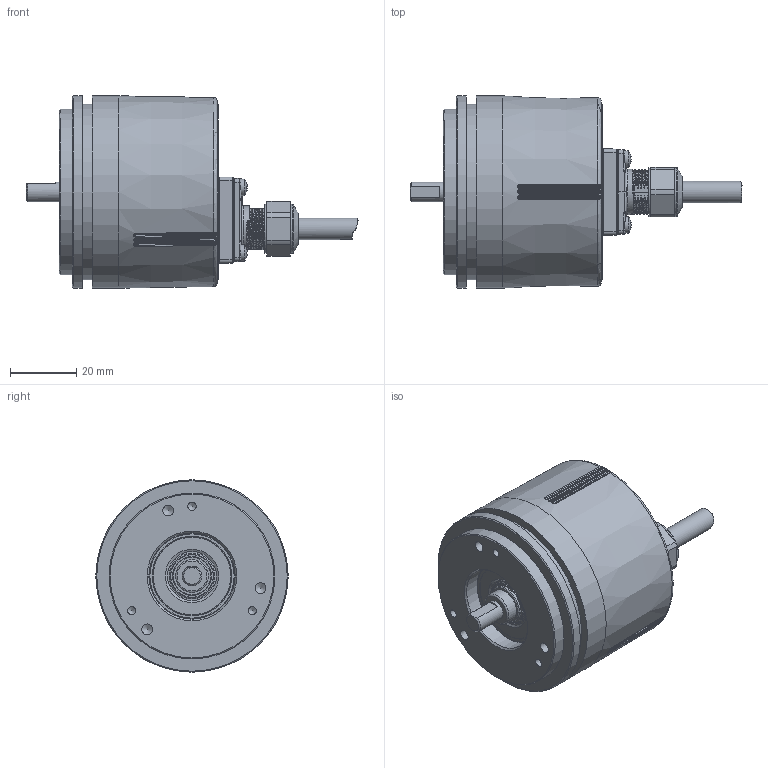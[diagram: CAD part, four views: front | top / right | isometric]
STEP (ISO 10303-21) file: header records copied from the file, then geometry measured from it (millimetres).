
FILE_DESCRIPTION( ( 'Unknown' ), '1' );
FILE_NAME( '//emea.baumernet.org/de05d/RD/caddy/k/GESAMT/EIL580/EIL580/3D/STEP/MarCom/EIL580-SY06.5Tx.xxxxx.A.stp', 'Unknown', ( 'Unknown' ), ( 'Unknown' ), 'PSStep 19.0.9', 'Unknown', ' ' );
FILE_SCHEMA( ( 'AUTOMOTIVE_DESIGN { 1 0 10303 214 1 1 1 1 }' ) );
Length unit declared in the file: millimetre
Products named in the file (2): Assem1; 1_165
Assembly tree (1 placements, depth 2):
  Assem1
    1_165
Bounding box: 100.1 x 58 x 58 mm (x, y, z)
Volume: 126568.4 mm3; surface area: 19592.3 mm2
Topology: 1 solids, 33 shells, 769 faces, 1816 edges, 1115 vertices
Faces by surface type: bspline 212, plane 212, cylinder 193, cone 69, torus 52, sphere 31
Full cylindrical faces by diameter (mm): 2.46 x6, 2.5 x4, 3.24 x6, 5 x4, 6 x1, 6.5 x1, 7.7 x1, 8.2 x1, 9 x1, 9.8 x1, 10 x2, 11.8 x1, 12.2 x1, 12.8 x1, 12.85 x1, 13.138 x1, 13.35 x1, 13.8 x1, 14.8 x2, 23.446 x1, 24 x1, 26 x1, 50 x1, 53 x2, 56 x1, 58 x2
Entity records: 51420 total; most frequent: CARTESIAN_POINT 30277, ORIENTED_EDGE 3280, DIRECTION 2475, EDGE_CURVE 1640, VERTEX_POINT 1076, AXIS2_PLACEMENT_3D 1064, EDGE_LOOP 928, FACE_OUTER_BOUND 834
